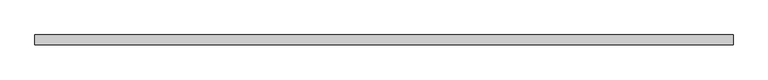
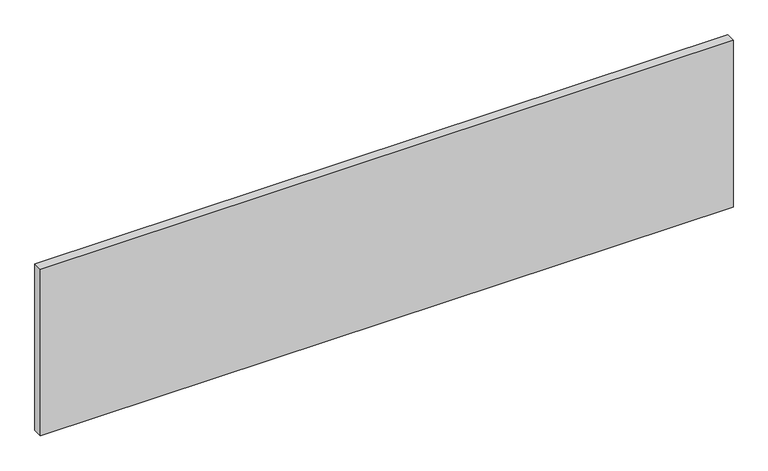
"""IFC4 building model written with IfcOpenShell, lengths in millimetres: plate geometry, 系统嵌板 : 玻璃."""

from ifc_helpers import new_model, si_unit, origin, origin_with_axes, place, context, project, spatial, polyline, outline, extrude, source, transform, mapped, element, save


def plate_e9dabd4d(model_context):
    return source(origin(), model_context, "Body", "SweptSolid", [
        extrude(outline(polyline([(894.1666667, -12.5), (-894.1666667, -12.5), (-894.1666667, 12.5), (894.1666667, 12.5), (894.1666667, -12.5)])), origin_with_axes(), (0.0, 0.0, 1.0), 455.0),
    ])


if __name__ == "__main__":
    model = new_model("IFC4")
    model_context = context("Model", 3, world=origin())
    ifc_project = project(units=[si_unit("LENGTHUNIT", "METRE", prefix="MILLI")], contexts=[model_context])
    site = spatial("IfcSite", under=ifc_project)
    building = spatial("IfcBuilding", under=site)
    placement = place(None, origin())
    plate_shape = plate_e9dabd4d(model_context)
    element("IfcPlate", 1, ObjectType="系统嵌板 : 玻璃", at=placement, inside=building, context=model_context, shape_type="MappedRepresentation", body=[
        mapped(plate_shape, transform((0.0, 0.0, 0.0), x_axis=(1.0, 0.0, 0.0), y_axis=(0.0, 1.0, 0.0), z_axis=(0.0, 0.0, 1.0))),
    ])
    save(model, "model.ifc")
